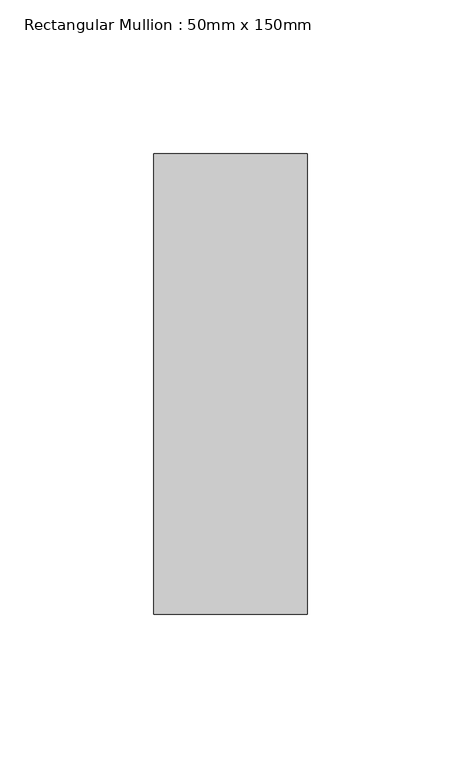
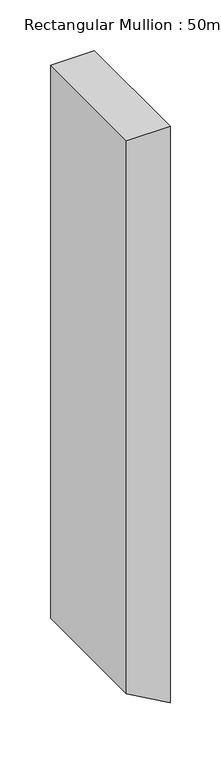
"""IFC4 building model written with IfcOpenShell, lengths in millimetres: member geometry, Rectangular Mullion : 50mm x 150mm."""

from ifc_helpers import new_model, si_unit, frame, origin, place, context, project, spatial, polyline, outline, extrude, source, transform, mapped, element, save


def rectangular_mullion_50mm_x_150mm_548437d9(model_context):
    return source(origin(), model_context, "Body", "SweptSolid", [
        extrude(outline(polyline([(0.0, 0.0), (0.0, -50.0), (-667.3304577, -50.0), (-695.9168295, 0.0), (0.0, 0.0)])), frame((0.0, -75.0, 0.0), z_axis=(0.0, 1.0, 0.0), x_axis=(0.0, 0.0, 1.0)), (0.0, 0.0, 1.0), 150.0),
    ])


if __name__ == "__main__":
    model = new_model("IFC4")
    model_context = context("Model", 3, world=origin())
    ifc_project = project(units=[si_unit("LENGTHUNIT", "METRE", prefix="MILLI")], contexts=[model_context])
    site = spatial("IfcSite", under=ifc_project)
    building = spatial("IfcBuilding", under=site)
    placement = place(None, origin())
    rectangular_mullion_50mm_x_150mm_shape = rectangular_mullion_50mm_x_150mm_548437d9(model_context)
    element("IfcMember", 1, ObjectType="Rectangular Mullion : 50mm x 150mm", at=placement, inside=building, context=model_context, shape_type="MappedRepresentation", body=[
        mapped(rectangular_mullion_50mm_x_150mm_shape, transform((0.0, 0.0, 0.0), x_axis=(1.0, 0.0, 0.0), y_axis=(0.0, 1.0, 0.0), z_axis=(0.0, 0.0, 1.0))),
    ])
    save(model, "model.ifc")
